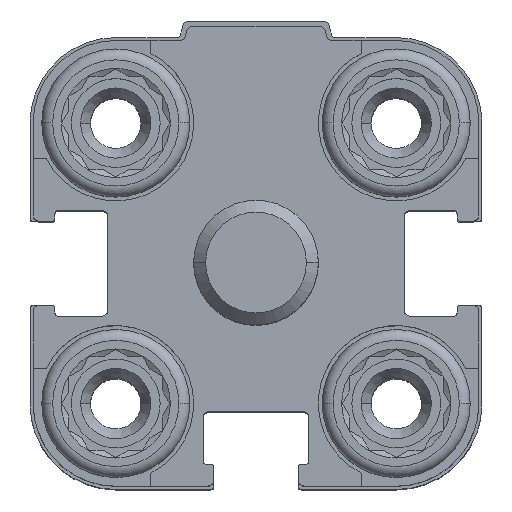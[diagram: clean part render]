
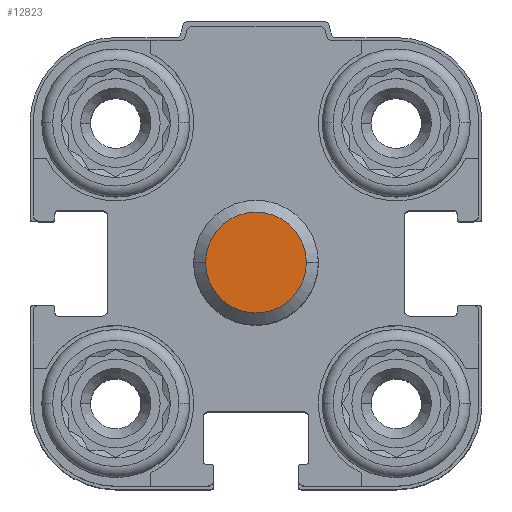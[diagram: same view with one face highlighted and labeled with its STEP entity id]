
A CAD part, top view. The second image highlights one B-rep face of the part: STEP entity #12823.
In plain terms, the highlighted planar face has unit normal (0, 0, 1).
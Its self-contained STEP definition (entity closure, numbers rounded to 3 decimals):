
#576 = DIRECTION ( 'NONE',  ( 0., 0., -1. ) ) ;
#677 = ORIENTED_EDGE ( 'NONE', *, *, #7761, .F. ) ;
#1262 = CARTESIAN_POINT ( 'NONE',  ( 0., 0., 24.5 ) ) ;
#3569 = VERTEX_POINT ( 'NONE', #15576 ) ;
#4017 = FACE_OUTER_BOUND ( 'NONE', #14340, .T. ) ;
#5262 = PLANE ( 'NONE',  #6241 ) ;
#5788 = EDGE_CURVE ( 'NONE', #10901, #3569, #14589, .T. ) ;
#6040 = DIRECTION ( 'NONE',  ( -1., 0., 0. ) ) ;
#6241 = AXIS2_PLACEMENT_3D ( 'NONE', #9482, #13549, #13627 ) ;
#6548 = AXIS2_PLACEMENT_3D ( 'NONE', #1262, #15253, #9592 ) ;
#7761 = EDGE_CURVE ( 'NONE', #3569, #10901, #16674, .T. ) ;
#8946 = AXIS2_PLACEMENT_3D ( 'NONE', #14317, #576, #6040 ) ;
#9482 = CARTESIAN_POINT ( 'NONE',  ( 0., 0., 24.5 ) ) ;
#9592 = DIRECTION ( 'NONE',  ( -1., 0., 0. ) ) ;
#10901 = VERTEX_POINT ( 'NONE', #12220 ) ;
#12130 = ORIENTED_EDGE ( 'NONE', *, *, #5788, .F. ) ;
#12220 = CARTESIAN_POINT ( 'NONE',  ( 3.233, 0., 24.5 ) ) ;
#12823 = ADVANCED_FACE ( 'NONE', ( #4017 ), #5262, .F. ) ;
#13549 = DIRECTION ( 'NONE',  ( 0., 0., -1. ) ) ;
#13627 = DIRECTION ( 'NONE',  ( 0., 1., 0. ) ) ;
#14317 = CARTESIAN_POINT ( 'NONE',  ( 0., 0., 24.5 ) ) ;
#14340 = EDGE_LOOP ( 'NONE', ( #677, #12130 ) ) ;
#14589 = CIRCLE ( 'NONE', #6548, 3.233 ) ;
#15253 = DIRECTION ( 'NONE',  ( 0., 0., -1. ) ) ;
#15576 = CARTESIAN_POINT ( 'NONE',  ( -3.233, 0., 24.5 ) ) ;
#16674 = CIRCLE ( 'NONE', #8946, 3.233 ) ;
